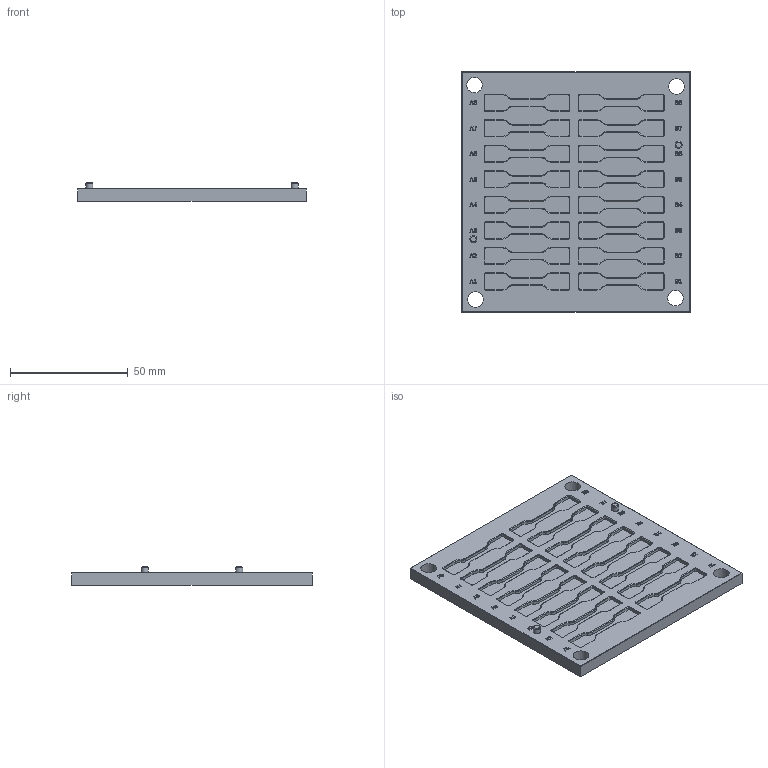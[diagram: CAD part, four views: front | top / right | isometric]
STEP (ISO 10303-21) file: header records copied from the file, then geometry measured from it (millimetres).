
FILE_DESCRIPTION(('Open CASCADE Model'),'2;1');
FILE_NAME('Open CASCADE Shape Model','2026-10-31T05:48:05',('Author'),( 'Open CASCADE'),'Open CASCADE STEP processor 7.8','Open CASCADE 7.8' ,'Unknown');
FILE_SCHEMA(('AUTOMOTIVE_DESIGN { 1 0 10303 214 1 1 1 1 }'));
Products named in the file (1): Open CASCADE STEP translator 7.8 1
Bounding box: 97 x 102 x 8 mm (x, y, z)
Volume: 49354.5 mm3; surface area: 24103.9 mm2
Topology: 1 solids, 1 shells, 1478 faces, 3792 edges, 2398 vertices
Faces by surface type: plane 606, extrusion 352, cylinder 262, cone 258
Full cylindrical faces by diameter (mm): 3 x2, 6.6 x4
Entity records: 98534 total; most frequent: CARTESIAN_POINT 27975, DIRECTION 11078, ORIENTED_EDGE 7584, PCURVE 7584, DEFINITIONAL_REPRESENTATION 7584, VECTOR 6992, LINE 6640, EDGE_CURVE 3792
